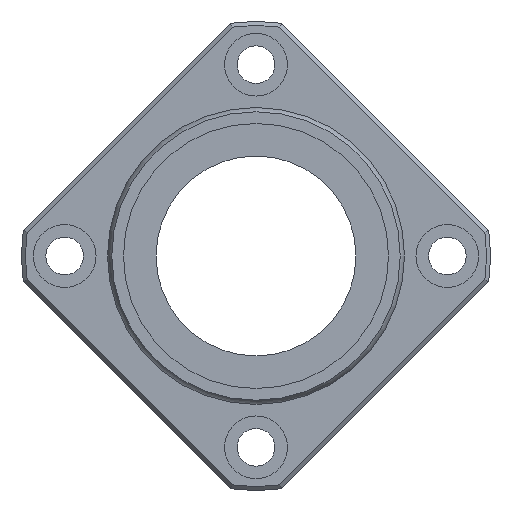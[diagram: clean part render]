
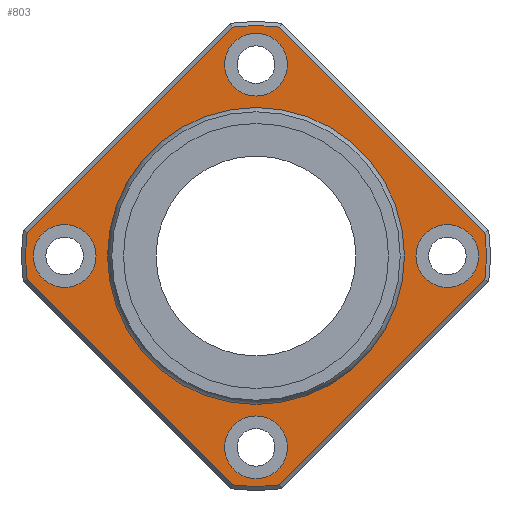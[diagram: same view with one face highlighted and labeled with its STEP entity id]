
A CAD part, left-side view. The second image highlights one B-rep face of the part: STEP entity #803.
In plain terms, the highlighted planar face has unit normal (-1, 0, 0).
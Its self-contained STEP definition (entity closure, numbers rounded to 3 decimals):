
#498=CARTESIAN_POINT('',(62.,-4.183,-40.082));
#499=VERTEX_POINT('',#498);
#507=CARTESIAN_POINT('',(62.,4.183,-40.082));
#508=VERTEX_POINT('',#507);
#509=CARTESIAN_POINT('',(62.,0.0,0.0));
#510=DIRECTION('',(1.0,0.0,0.0));
#511=DIRECTION('',(0.0,0.0,-1.0));
#512=AXIS2_PLACEMENT_3D('',#509,#510,#511);
#513=CIRCLE('',#512,40.3);
#514=EDGE_CURVE('',#499,#508,#513,.T.);
#540=CARTESIAN_POINT('',(62.,40.082,-4.183));
#541=VERTEX_POINT('',#540);
#542=CARTESIAN_POINT('',(62.,4.183,-40.082));
#543=DIRECTION('',(0.0,0.707,0.707));
#544=VECTOR('',#543,50.77);
#545=LINE('',#542,#544);
#546=EDGE_CURVE('',#508,#541,#545,.T.);
#573=CARTESIAN_POINT('',(62.,40.082,4.183));
#574=VERTEX_POINT('',#573);
#575=CARTESIAN_POINT('',(62.,0.0,0.0));
#576=DIRECTION('',(1.0,0.0,0.0));
#577=DIRECTION('',(0.0,0.0,1.0));
#578=AXIS2_PLACEMENT_3D('',#575,#576,#577);
#579=CIRCLE('',#578,40.3);
#580=EDGE_CURVE('',#541,#574,#579,.T.);
#604=CARTESIAN_POINT('',(62.,4.183,40.082));
#605=VERTEX_POINT('',#604);
#606=CARTESIAN_POINT('',(62.,40.082,4.183));
#607=DIRECTION('',(0.0,-0.707,0.707));
#608=VECTOR('',#607,50.77);
#609=LINE('',#606,#608);
#610=EDGE_CURVE('',#574,#605,#609,.T.);
#629=CARTESIAN_POINT('',(62.,-4.183,40.082));
#630=VERTEX_POINT('',#629);
#631=CARTESIAN_POINT('',(62.,0.0,0.0));
#632=DIRECTION('',(1.0,0.0,0.0));
#633=DIRECTION('',(0.0,0.0,1.0));
#634=AXIS2_PLACEMENT_3D('',#631,#632,#633);
#635=CIRCLE('',#634,40.3);
#636=EDGE_CURVE('',#605,#630,#635,.T.);
#655=CARTESIAN_POINT('',(62.,-40.082,4.183));
#656=VERTEX_POINT('',#655);
#657=CARTESIAN_POINT('',(62.,-4.183,40.082));
#658=DIRECTION('',(0.0,-0.707,-0.707));
#659=VECTOR('',#658,50.77);
#660=LINE('',#657,#659);
#661=EDGE_CURVE('',#630,#656,#660,.T.);
#680=CARTESIAN_POINT('',(62.,-40.082,-4.183));
#681=VERTEX_POINT('',#680);
#682=CARTESIAN_POINT('',(62.,0.0,0.0));
#683=DIRECTION('',(1.0,0.0,0.0));
#684=DIRECTION('',(0.0,0.0,1.0));
#685=AXIS2_PLACEMENT_3D('',#682,#683,#684);
#686=CIRCLE('',#685,40.3);
#687=EDGE_CURVE('',#656,#681,#686,.T.);
#706=CARTESIAN_POINT('',(62.,-40.082,-4.183));
#707=DIRECTION('',(0.0,0.707,-0.707));
#708=VECTOR('',#707,50.77);
#709=LINE('',#706,#708);
#710=EDGE_CURVE('',#681,#499,#709,.T.);
#733=CARTESIAN_POINT('',(62.,0.0,33.357));
#734=DIRECTION('',(-1.0,0.0,0.0));
#735=DIRECTION('',(0.0,0.0,1.0));
#736=AXIS2_PLACEMENT_3D('',#733,#734,#735);
#737=PLANE('',#736);
#738=ORIENTED_EDGE('',*,*,#514,.F.);
#739=ORIENTED_EDGE('',*,*,#710,.F.);
#740=ORIENTED_EDGE('',*,*,#687,.F.);
#741=ORIENTED_EDGE('',*,*,#661,.F.);
#742=ORIENTED_EDGE('',*,*,#636,.F.);
#743=ORIENTED_EDGE('',*,*,#610,.F.);
#744=ORIENTED_EDGE('',*,*,#580,.F.);
#745=ORIENTED_EDGE('',*,*,#546,.F.);
#746=EDGE_LOOP('',(#738,#739,#740,#741,#742,#743,#744,#745));
#747=FACE_OUTER_BOUND('',#746,.T.);
#748=CARTESIAN_POINT('',(62.,0.0,25.714));
#749=VERTEX_POINT('',#748);
#750=CARTESIAN_POINT('',(62.,0.0,0.0));
#751=DIRECTION('',(-1.0,0.0,0.0));
#752=DIRECTION('',(0.0,0.0,1.0));
#753=AXIS2_PLACEMENT_3D('',#750,#751,#752);
#754=CIRCLE('',#753,25.714);
#755=EDGE_CURVE('',#749,#749,#754,.T.);
#756=ORIENTED_EDGE('',*,*,#755,.F.);
#757=EDGE_LOOP('',(#756));
#758=FACE_BOUND('',#757,.T.);
#759=CARTESIAN_POINT('',(62.0,-28.,0.));
#760=VERTEX_POINT('',#759);
#761=CARTESIAN_POINT('',(62.,-33.5,0.));
#762=DIRECTION('',(1.0,0.0,0.0));
#763=DIRECTION('',(0.0,1.0,0.0));
#764=AXIS2_PLACEMENT_3D('',#761,#762,#763);
#765=CIRCLE('',#764,5.5);
#766=EDGE_CURVE('',#760,#760,#765,.T.);
#767=ORIENTED_EDGE('',*,*,#766,.T.);
#768=EDGE_LOOP('',(#767));
#769=FACE_BOUND('',#768,.T.);
#770=CARTESIAN_POINT('',(62.0,39.0,0.));
#771=VERTEX_POINT('',#770);
#772=CARTESIAN_POINT('',(62.,33.5,0.));
#773=DIRECTION('',(1.0,0.0,0.0));
#774=DIRECTION('',(0.0,1.0,0.0));
#775=AXIS2_PLACEMENT_3D('',#772,#773,#774);
#776=CIRCLE('',#775,5.5);
#777=EDGE_CURVE('',#771,#771,#776,.T.);
#778=ORIENTED_EDGE('',*,*,#777,.T.);
#779=EDGE_LOOP('',(#778));
#780=FACE_BOUND('',#779,.T.);
#781=CARTESIAN_POINT('',(62.0,5.5,33.5));
#782=VERTEX_POINT('',#781);
#783=CARTESIAN_POINT('',(62.,0.,33.5));
#784=DIRECTION('',(1.0,0.0,0.0));
#785=DIRECTION('',(0.0,1.0,0.0));
#786=AXIS2_PLACEMENT_3D('',#783,#784,#785);
#787=CIRCLE('',#786,5.5);
#788=EDGE_CURVE('',#782,#782,#787,.T.);
#789=ORIENTED_EDGE('',*,*,#788,.T.);
#790=EDGE_LOOP('',(#789));
#791=FACE_BOUND('',#790,.T.);
#792=CARTESIAN_POINT('',(62.0,5.5,-33.5));
#793=VERTEX_POINT('',#792);
#794=CARTESIAN_POINT('',(62.,0.,-33.5));
#795=DIRECTION('',(1.0,0.0,0.0));
#796=DIRECTION('',(0.0,1.0,0.0));
#797=AXIS2_PLACEMENT_3D('',#794,#795,#796);
#798=CIRCLE('',#797,5.5);
#799=EDGE_CURVE('',#793,#793,#798,.T.);
#800=ORIENTED_EDGE('',*,*,#799,.T.);
#801=EDGE_LOOP('',(#800));
#802=FACE_BOUND('',#801,.T.);
#803=ADVANCED_FACE('',(#747,#758,#769,#780,#791,#802),#737,.T.);
